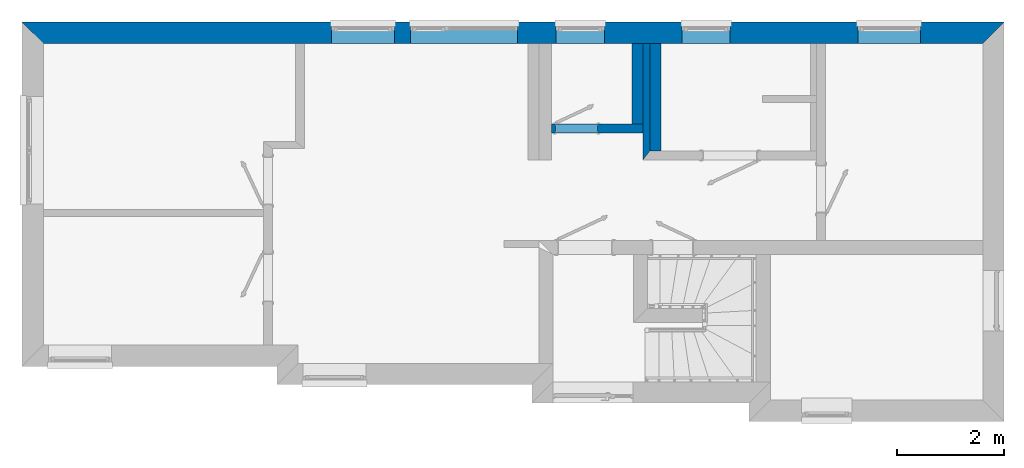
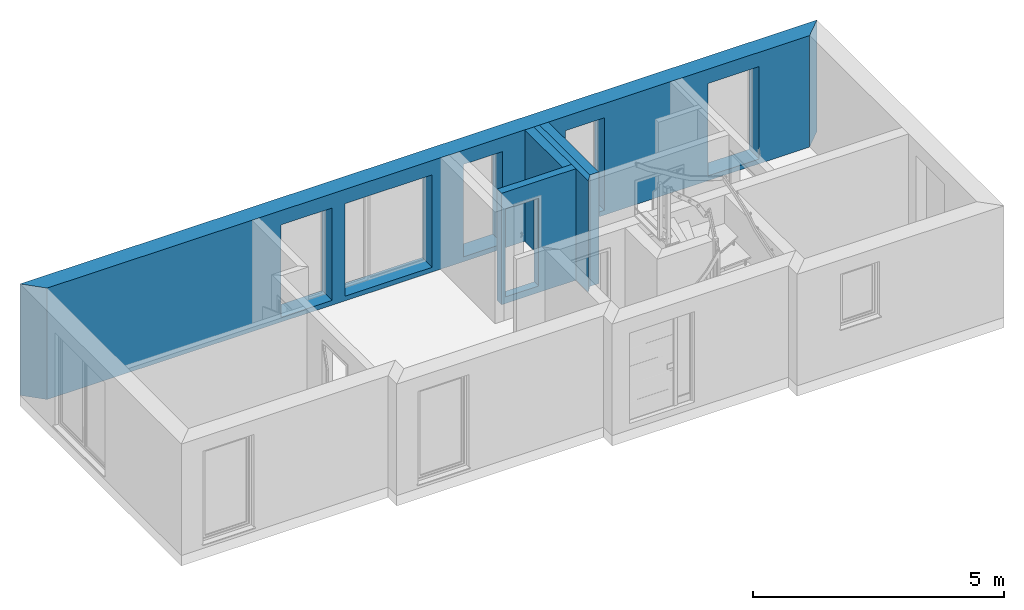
# One storey, part 6 of 13: 5 walls, 6 openings.
"""IFC2X3 building model written with IfcOpenShell, lengths in millimetres."""

from ifc_helpers import new_model, si_unit, frame, origin_with_axes, place, context, project, spatial, faceted_brep, material, layer, layer_set, layer_usage, element, save


model = new_model("IFC2X3")

# Units and contexts
model_context = context("Model", 3, world=origin_with_axes())
ifc_project = project(units=[si_unit("LENGTHUNIT", "METRE", prefix="MILLI")], contexts=[model_context])

# Site, building, storey
site_placement = place(None, origin_with_axes())
site = spatial("IfcSite", under=ifc_project, at=site_placement, Name="Site", CompositionType="ELEMENT")
building_placement = place(site_placement, origin_with_axes())
building = spatial("IfcBuilding", under=site, at=building_placement, Name="?", CompositionType="ELEMENT")
storey_placement = place(building_placement, origin_with_axes())
storey = spatial("IfcBuildingStorey", under=building, at=storey_placement, Name="Erdgeschoß", CompositionType="ELEMENT", Elevation=0.0)

# Wall, openings
ifc_material_1 = material(Name="Material_AW")
ifc_layer_1 = layer(ifc_material_1, 395.0, ventilated=False)
ifc_layer_set_1 = layer_set([ifc_layer_1], Name="MaterialLayerSet_AW")
ifc_layer_usage_1 = layer_usage(ifc_layer_set_1, "AXIS2", "NEGATIVE", 197.5)
wall_1_placement = place(storey_placement, frame((197.5, -197.5, 0.0), z_axis=(0.0, 0.0, 1.0), x_axis=(1.0, 0.0, 0.0)))
wall_1 = element("IfcWall", 1, at=wall_1_placement, inside=storey, material=ifc_layer_usage_1, Name="AW-01", context=model_context, shape_type="Brep", body=[
    faceted_brep([(17707.5008600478, -197.5, 0.0), (17707.5008600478, -197.5, 2707.0), (197.5, -197.5, 2707.0), (197.5, -197.5, 0.0), (18102.5001275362, 197.499999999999, 0.0), (18102.5001275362, 197.499999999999, 150.0), (18102.5001275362, 197.499999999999, 2707.0), (17707.5008600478, -197.500000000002, 2707.0), (17707.5008600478, -197.500000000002, 0.0), (-197.500233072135, 197.5, 0.0), (-197.500233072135, 197.5, 150.0), (5569.5, 197.5, 150.0), (5569.5, 197.5, 116.0), (6739.5, 197.5, 116.0), (6739.5, 197.5, 150.0), (7039.5, 197.5, 150.0), (7039.5, 197.5, 116.0), (9039.5, 197.5, 116.0), (9039.5, 197.5, 150.0), (9755.5, 197.5, 150.0), (9755.5, 197.5, 116.0), (10655.5, 197.5, 116.0), (10655.5, 197.5, 150.0), (12099.5, 197.5, 150.0), (12099.5, 197.5, 116.0), (12999.5, 197.5, 116.0), (12999.5, 197.5, 150.0), (15377.5, 197.5, 150.0), (15377.5, 197.5, 116.0), (16547.5, 197.5, 116.0), (16547.5, 197.5, 150.0), (18102.5001275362, 197.5, 150.0), (18102.5001275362, 197.5, 0.0), (-197.500233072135, 197.5, 150.0), (-197.500233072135, 197.5, 2707.0), (18102.5001275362, 197.5, 2707.0), (18102.5001275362, 197.5, 150.0), (16547.5, 197.5, 150.0), (16547.5, 197.5, 116.0), (15377.5, 197.5, 116.0), (15377.5, 197.5, 150.0), (12999.5, 197.5, 150.0), (12999.5, 197.5, 116.0), (12099.5, 197.5, 116.0), (12099.5, 197.5, 150.0), (10655.5, 197.5, 150.0), (10655.5, 197.5, 116.0), (9755.5, 197.5, 116.0), (9755.5, 197.5, 150.0), (9039.5, 197.5, 150.0), (9039.5, 197.5, 116.0), (7039.5, 197.5, 116.0), (7039.5, 197.5, 150.0), (6739.5, 197.5, 150.0), (6739.5, 197.5, 116.0), (5569.5, 197.5, 116.0), (5569.5, 197.5, 150.0), (197.5, -197.5, 0.0), (197.5, -197.5, 2707.0), (-197.500233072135, 197.5, 2707.0), (-197.500233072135, 197.5, 150.0), (-197.500233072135, 197.5, 0.0), (197.5, -197.5, 0.0), (-197.500233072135, 197.5, 0.0), (18102.5001275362, 197.5, 0.0), (17707.5008600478, -197.5, 0.0), (-197.500233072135, 197.5, 2707.0), (197.5, -197.5, 2707.0), (17707.5008600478, -197.5, 2707.0), (18102.5001275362, 197.5, 2707.0)], [[[0, 1, 2, 3]], [[4, 5, 6, 7, 8]], [[9, 10, 11, 12, 13, 14, 15, 16, 17, 18, 19, 20, 21, 22, 23, 24, 25, 26, 27, 28, 29, 30, 31, 32]], [[33, 34, 35, 36, 37, 38, 39, 40, 41, 42, 43, 44, 45, 46, 47, 48, 49, 50, 51, 52, 53, 54, 55, 56]], [[57, 58, 59, 60, 61]], [[62, 63, 64, 65]], [[66, 67, 68, 69]]]),
])
opening_1_placement = place(wall_1_placement, frame((5569.5, 0.0, 116.0), z_axis=(0.0, 0.0, 1.0), x_axis=(1.0, 0.0, 0.0)))
element("IfcOpeningElement", 2, at=opening_1_placement, cuts=wall_1, Name="AW-01|FE01", context=model_context, shape_type="Brep", body=[
    faceted_brep([(0.0, 207.5, 0.0), (0.0, 207.5, 2244.0), (1170.0, 207.5, 2244.0), (1170.0, 207.5, 0.0), (0.0, -207.5, 0.0), (0.0, -207.5, 2244.0), (0.0, 207.5, 2244.0), (0.0, 207.5, 0.0), (1170.0, -207.5, 0.0), (0.0, -207.5, 0.0), (0.0, 207.5, 0.0), (1170.0, 207.5, 0.0), (1170.0, -207.5, 2244.0), (1170.0, -207.5, 0.0), (1170.0, 207.5, 0.0), (1170.0, 207.5, 2244.0), (0.0, -207.5, 2244.0), (1170.0, -207.5, 2244.0), (1170.0, 207.5, 2244.0), (0.0, 207.5, 2244.0), (0.0, -207.5, 0.0), (1170.0, -207.5, 0.0), (1170.0, -207.5, 2244.0), (0.0, -207.5, 2244.0)], [[[0, 1, 2, 3]], [[4, 5, 6, 7]], [[8, 9, 10, 11]], [[12, 13, 14, 15]], [[16, 17, 18, 19]], [[20, 21, 22, 23]]]),
])
opening_2_placement = place(wall_1_placement, frame((7039.5, 0.0, 116.0), z_axis=(0.0, 0.0, 1.0), x_axis=(1.0, 0.0, 0.0)))
element("IfcOpeningElement", 3, at=opening_2_placement, cuts=wall_1, Name="AW-01|FE02", context=model_context, shape_type="Brep", body=[
    faceted_brep([(0.0, 207.5, 0.0), (0.0, 207.5, 2244.0), (2000.0, 207.5, 2244.0), (2000.0, 207.5, 0.0), (0.0, -207.5, 0.0), (0.0, -207.5, 2244.0), (0.0, 207.5, 2244.0), (0.0, 207.5, 0.0), (2000.0, -207.5, 0.0), (0.0, -207.5, 0.0), (0.0, 207.5, 0.0), (2000.0, 207.5, 0.0), (2000.0, -207.5, 2244.0), (2000.0, -207.5, 0.0), (2000.0, 207.5, 0.0), (2000.0, 207.5, 2244.0), (0.0, -207.5, 2244.0), (2000.0, -207.5, 2244.0), (2000.0, 207.5, 2244.0), (0.0, 207.5, 2244.0), (0.0, -207.5, 0.0), (2000.0, -207.5, 0.0), (2000.0, -207.5, 2244.0), (0.0, -207.5, 2244.0)], [[[0, 1, 2, 3]], [[4, 5, 6, 7]], [[8, 9, 10, 11]], [[12, 13, 14, 15]], [[16, 17, 18, 19]], [[20, 21, 22, 23]]]),
])
opening_3_placement = place(wall_1_placement, frame((9755.5, 0.0, 116.0), z_axis=(0.0, 0.0, 1.0), x_axis=(1.0, 0.0, 0.0)))
element("IfcOpeningElement", 4, at=opening_3_placement, cuts=wall_1, Name="AW-01|FE03", context=model_context, shape_type="Brep", body=[
    faceted_brep([(0.0, 207.5, 0.0), (0.0, 207.5, 2244.0), (900.0, 207.5, 2244.0), (900.0, 207.5, 0.0), (0.0, -207.5, 0.0), (0.0, -207.5, 2244.0), (0.0, 207.5, 2244.0), (0.0, 207.5, 0.0), (900.0, -207.5, 0.0), (0.0, -207.5, 0.0), (0.0, 207.5, 0.0), (900.0, 207.5, 0.0), (900.0, -207.5, 2244.0), (900.0, -207.5, 0.0), (900.0, 207.5, 0.0), (900.0, 207.5, 2244.0), (0.0, -207.5, 2244.0), (900.0, -207.5, 2244.0), (900.0, 207.5, 2244.0), (0.0, 207.5, 2244.0), (0.0, -207.5, 0.0), (900.0, -207.5, 0.0), (900.0, -207.5, 2244.0), (0.0, -207.5, 2244.0)], [[[0, 1, 2, 3]], [[4, 5, 6, 7]], [[8, 9, 10, 11]], [[12, 13, 14, 15]], [[16, 17, 18, 19]], [[20, 21, 22, 23]]]),
])
opening_4_placement = place(wall_1_placement, frame((12099.5, 0.0, 116.0), z_axis=(0.0, 0.0, 1.0), x_axis=(1.0, 0.0, 0.0)))
element("IfcOpeningElement", 5, at=opening_4_placement, cuts=wall_1, Name="AW-01|FE04", context=model_context, shape_type="Brep", body=[
    faceted_brep([(0.0, 207.5, 0.0), (0.0, 207.5, 2244.0), (900.0, 207.5, 2244.0), (900.0, 207.5, 0.0), (0.0, -207.5, 0.0), (0.0, -207.5, 2244.0), (0.0, 207.5, 2244.0), (0.0, 207.5, 0.0), (900.0, -207.5, 0.0), (0.0, -207.5, 0.0), (0.0, 207.5, 0.0), (900.0, 207.5, 0.0), (900.0, -207.5, 2244.0), (900.0, -207.5, 0.0), (900.0, 207.5, 0.0), (900.0, 207.5, 2244.0), (0.0, -207.5, 2244.0), (900.0, -207.5, 2244.0), (900.0, 207.5, 2244.0), (0.0, 207.5, 2244.0), (0.0, -207.5, 0.0), (900.0, -207.5, 0.0), (900.0, -207.5, 2244.0), (0.0, -207.5, 2244.0)], [[[0, 1, 2, 3]], [[4, 5, 6, 7]], [[8, 9, 10, 11]], [[12, 13, 14, 15]], [[16, 17, 18, 19]], [[20, 21, 22, 23]]]),
])
opening_5_placement = place(wall_1_placement, frame((15377.5, 0.0, 116.0), z_axis=(0.0, 0.0, 1.0), x_axis=(1.0, 0.0, 0.0)))
element("IfcOpeningElement", 6, at=opening_5_placement, cuts=wall_1, Name="AW-01|FE05", context=model_context, shape_type="Brep", body=[
    faceted_brep([(0.0, 207.5, 0.0), (0.0, 207.5, 2244.0), (1170.0, 207.5, 2244.0), (1170.0, 207.5, 0.0), (0.0, -207.5, 0.0), (0.0, -207.5, 2244.0), (0.0, 207.5, 2244.0), (0.0, 207.5, 0.0), (1170.0, -207.5, 0.0), (0.0, -207.5, 0.0), (0.0, 207.5, 0.0), (1170.0, 207.5, 0.0), (1170.0, -207.5, 2244.0), (1170.0, -207.5, 0.0), (1170.0, 207.5, 0.0), (1170.0, 207.5, 2244.0), (0.0, -207.5, 2244.0), (1170.0, -207.5, 2244.0), (1170.0, 207.5, 2244.0), (0.0, 207.5, 2244.0), (0.0, -207.5, 0.0), (1170.0, -207.5, 0.0), (1170.0, -207.5, 2244.0), (0.0, -207.5, 2244.0)], [[[0, 1, 2, 3]], [[4, 5, 6, 7]], [[8, 9, 10, 11]], [[12, 13, 14, 15]], [[16, 17, 18, 19]], [[20, 21, 22, 23]]]),
])

# Walls
ifc_material_2 = material(Name="Material_IW")
ifc_layer_2 = layer(ifc_material_2, 206.0, ventilated=False)
ifc_layer_set_2 = layer_set([ifc_layer_2], Name="MaterialLayerSet_IW")
ifc_layer_usage_2 = layer_usage(ifc_layer_set_2, "AXIS2", "NEGATIVE", 103.0)
wall_2_placement = place(storey_placement, frame((11466.0, -395.0, 0.0), z_axis=(0.0, 0.0, 1.0), x_axis=(0.0, -1.0, 0.0)))
element("IfcWall", 7, at=wall_2_placement, inside=storey, material=ifc_layer_usage_2, Name="IW-08", context=model_context, shape_type="Brep", body=[
    faceted_brep([(1502.0, -103.0, 0.0), (1502.0, -103.0, 2707.0), (0.0, -103.0, 2707.0), (0.0, -103.0, 0.0), (1502.0, 103.0, 0.0), (1502.0, 103.0, 2707.0), (1502.0, -103.0, 2707.0), (1502.0, -103.0, 0.0), (0.0, 103.0, 0.0), (0.0, 103.0, 2707.0), (1502.0, 103.0, 2707.0), (1502.0, 103.0, 0.0), (0.0, -103.0, 0.0), (0.0, -103.0, 2707.0), (0.0, 103.0, 2707.0), (0.0, 103.0, 0.0), (0.0, -103.0, 0.0), (0.0, 103.0, 0.0), (1502.0, 103.0, 0.0), (1502.0, -103.0, 0.0), (0.0, -103.0, 2707.0), (1502.0, -103.0, 2707.0), (1502.0, 103.0, 2707.0), (0.0, 103.0, 2707.0)], [[[0, 1, 2, 3]], [[4, 5, 6, 7]], [[8, 9, 10, 11]], [[12, 13, 14, 15]], [[16, 17, 18, 19]], [[20, 21, 22, 23]]]),
])
ifc_layer_3 = layer(ifc_material_2, 132.0, ventilated=False)
ifc_layer_set_3 = layer_set([ifc_layer_3], Name="MaterialLayerSet_IW")
ifc_layer_usage_3 = layer_usage(ifc_layer_set_3, "AXIS2", "NEGATIVE", 66.0)
wall_3_placement = place(storey_placement, frame((11635.0, -395.0, 0.0), z_axis=(0.0, 0.0, 1.0), x_axis=(0.0, -1.0, 0.0)))
element("IfcWall", 8, at=wall_3_placement, inside=storey, material=ifc_layer_usage_3, Name="IW-09", context=model_context, shape_type="Brep", body=[
    faceted_brep([(2173.99975563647, -66.0, 0.0), (2173.99975563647, -66.0, 2707.0), (0.0, -66.0, 2707.0), (0.0, -66.0, 0.0), (2001.99990288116, 66.0, 0.0), (2001.99990288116, 66.0, 2707.0), (2173.99975563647, -65.9999999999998, 2707.0), (2173.99975563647, -65.9999999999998, 0.0), (0.0, 66.0, 0.0), (0.0, 66.0, 2707.0), (2001.99990288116, 66.0, 2707.0), (2001.99990288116, 66.0, 0.0), (0.0, -66.0, 0.0), (0.0, -66.0, 2707.0), (0.0, 66.0, 2707.0), (0.0, 66.0, 0.0), (0.0, -66.0, 0.0), (0.0, 66.0, 0.0), (2001.99990288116, 66.0, 0.0), (2173.99975563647, -66.0, 0.0), (0.0, -66.0, 2707.0), (2173.99975563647, -66.0, 2707.0), (2001.99990288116, 66.0, 2707.0), (0.0, 66.0, 2707.0)], [[[0, 1, 2, 3]], [[4, 5, 6, 7]], [[8, 9, 10, 11]], [[12, 13, 14, 15]], [[16, 17, 18, 19]], [[20, 21, 22, 23]]]),
])

# Wall, opening
ifc_layer_4 = layer(ifc_material_2, 172.0, ventilated=False)
ifc_layer_set_4 = layer_set([ifc_layer_4], Name="MaterialLayerSet_IW")
ifc_layer_usage_4 = layer_usage(ifc_layer_set_4, "AXIS2", "NEGATIVE", 86.0)
wall_4_placement = place(storey_placement, frame((11569.0, -1983.0, 0.0), z_axis=(0.0, 0.0, 1.0), x_axis=(-1.0, 0.0, 0.0)))
wall_4 = element("IfcWall", 9, at=wall_4_placement, inside=storey, material=ifc_layer_usage_4, Name="IW-10", context=model_context, shape_type="Brep", body=[
    faceted_brep([(1706.0, -86.0, 0.0), (1706.0, -86.0, 2707.0), (0.0, -86.0, 2707.0), (0.0, -86.0, 0.0), (1706.0, 86.0, 0.0), (1706.0, 86.0, 2707.0), (1706.0, -86.0, 2707.0), (1706.0, -86.0, 0.0), (0.0, 86.0, 0.0), (0.0, 86.0, 2707.0), (1706.0, 86.0, 2707.0), (1706.0, 86.0, 0.0), (0.0, -86.0, 0.0), (0.0, -86.0, 2707.0), (0.0, 86.0, 2707.0), (0.0, 86.0, 0.0), (0.0, -86.0, 0.0), (0.0, 86.0, 0.0), (1706.0, 86.0, 0.0), (1706.0, -86.0, 0.0), (0.0, -86.0, 2707.0), (1706.0, -86.0, 2707.0), (1706.0, 86.0, 2707.0), (0.0, 86.0, 2707.0)], [[[0, 1, 2, 3]], [[4, 5, 6, 7]], [[8, 9, 10, 11]], [[12, 13, 14, 15]], [[16, 17, 18, 19]], [[20, 21, 22, 23]]]),
])
opening_6_placement = place(wall_4_placement, frame((856.0, 0.0, 160.0), z_axis=(0.0, 0.0, 1.0), x_axis=(1.0, 0.0, 0.0)))
element("IfcOpeningElement", 10, at=opening_6_placement, cuts=wall_4, Name="IW-10|IT05", context=model_context, shape_type="Brep", body=[
    faceted_brep([(0.0, 96.0, 0.0), (0.0, 96.0, 2135.0), (760.0, 96.0, 2135.0), (760.0, 96.0, 0.0), (0.0, -96.0, 0.0), (0.0, -96.0, 2135.0), (0.0, 96.0, 2135.0), (0.0, 96.0, 0.0), (760.0, -96.0, 0.0), (0.0, -96.0, 0.0), (0.0, 96.0, 0.0), (760.0, 96.0, 0.0), (760.0, -96.0, 2135.0), (760.0, -96.0, 0.0), (760.0, 96.0, 0.0), (760.0, 96.0, 2135.0), (0.0, -96.0, 2135.0), (760.0, -96.0, 2135.0), (760.0, 96.0, 2135.0), (0.0, 96.0, 2135.0), (0.0, -96.0, 0.0), (760.0, -96.0, 0.0), (760.0, -96.0, 2135.0), (0.0, -96.0, 2135.0)], [[[0, 1, 2, 3]], [[4, 5, 6, 7]], [[8, 9, 10, 11]], [[12, 13, 14, 15]], [[16, 17, 18, 19]], [[20, 21, 22, 23]]]),
])

# Wall
wall_5_placement = place(storey_placement, frame((11804.0, -2397.0, 0.0), z_axis=(0.0, 0.0, 1.0), x_axis=(0.0, 1.0, 0.0)))
element("IfcWall", 11, at=wall_5_placement, inside=storey, material=ifc_layer_usage_2, Name="IW-11", context=model_context, shape_type="Brep", body=[
    faceted_brep([(2002.0, -103.0, 0.0), (2002.0, -103.0, 2707.0), (0.0, -103.0, 2707.0), (0.0, -103.0, 0.0), (2002.0, 103.0, 0.0), (2002.0, 103.0, 2707.0), (2002.0, -103.0, 2707.0), (2002.0, -103.0, 0.0), (0.0, 103.0, 0.0), (0.0, 103.0, 2707.0), (2002.0, 103.0, 2707.0), (2002.0, 103.0, 0.0), (0.0, -103.0, 0.0), (0.0, -103.0, 2707.0), (0.0, 103.0, 2707.0), (0.0, 103.0, 0.0), (0.0, -103.0, 0.0), (0.0, 103.0, 0.0), (2002.0, 103.0, 0.0), (2002.0, -103.0, 0.0), (0.0, -103.0, 2707.0), (2002.0, -103.0, 2707.0), (2002.0, 103.0, 2707.0), (0.0, 103.0, 2707.0)], [[[0, 1, 2, 3]], [[4, 5, 6, 7]], [[8, 9, 10, 11]], [[12, 13, 14, 15]], [[16, 17, 18, 19]], [[20, 21, 22, 23]]]),
])

save(model, "model.ifc")
